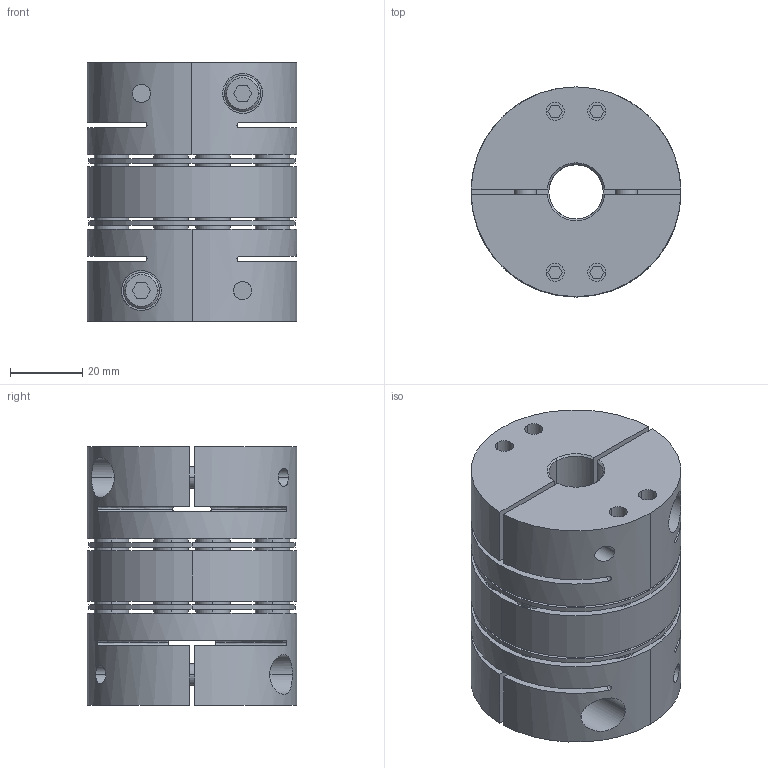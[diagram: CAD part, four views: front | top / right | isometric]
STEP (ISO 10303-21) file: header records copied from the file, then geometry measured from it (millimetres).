
FILE_DESCRIPTION((''),'2;1');
FILE_NAME('TAD-58C-15×17.stp','2022-11-13T21:56:30',(''),(''),'AutoCAD STEP 2000i','AutoCAD 2000i',', , ');
FILE_SCHEMA(('CONFIG_CONTROL_DESIGN'));
Length unit declared in the file: millimetre
Products named in the file (6): TAD-58C-12×12; 忣兜1; TA58C-12-2; CAP-M6×20; TA58C-12; TAS-58C-ITA
Assembly tree (6 placements, depth 3):
  TAD-58C-12×12
    忣兜1
    TA58C-12-2
      CAP-M6×20
    TA58C-12
      CAP-M6×20
    TAS-58C-ITA
Bounding box: 58 x 58 x 71.5 mm (x, y, z)
Volume: 138402.6 mm3; surface area: 56349.1 mm2
Topology: 1 solids, 5 shells, 568 faces, 1360 edges, 920 vertices
Faces by surface type: plane 252, cylinder 228, cone 72, bspline 16
Entity records: 18589 total; most frequent: CARTESIAN_POINT 4807, DIRECTION 2994, ORIENTED_EDGE 2640, EDGE_CURVE 1320, AXIS2_PLACEMENT_3D 1139, VERTEX_POINT 860, EDGE_LOOP 724, VECTOR 716
